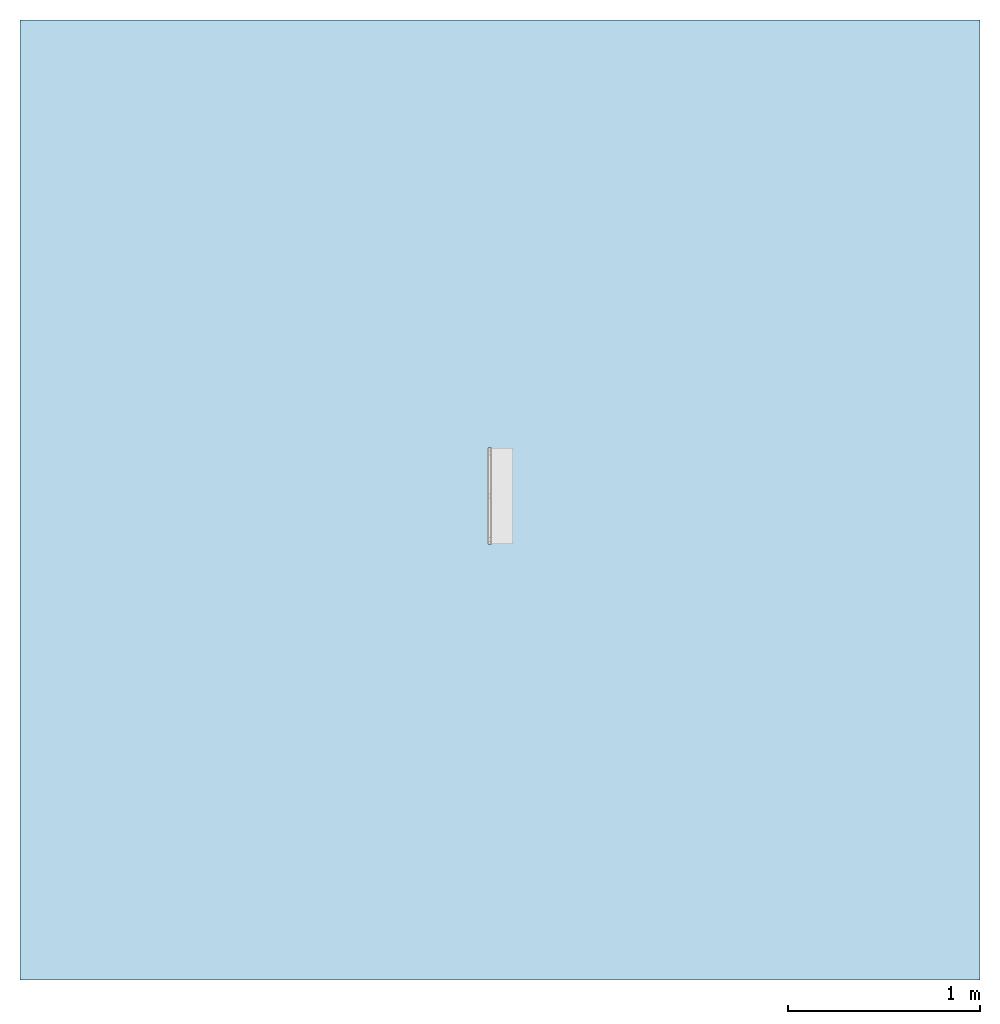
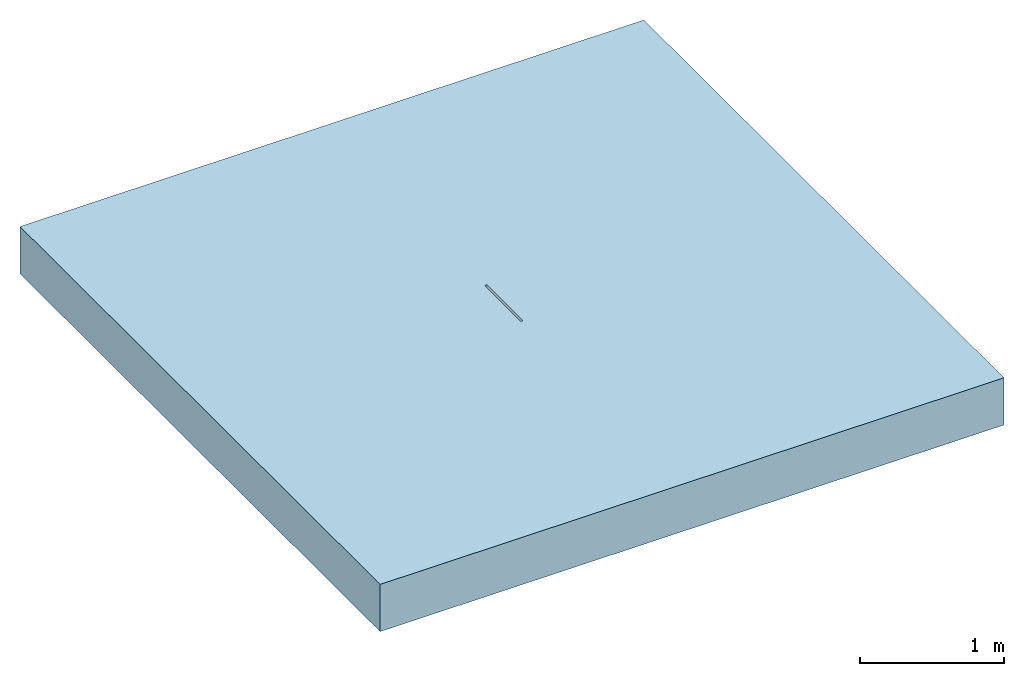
# One storey, part 1 of 2: 1 slab, 2 openings.
"""IFC2X3 building model written with IfcOpenShell, lengths in millimetres."""

import ifcopenshell
import ifcopenshell.guid

model = None  # the IFC model being written
_history = None  # IfcOwnerHistory: only IFC2X3 demands one
_inside = {}  # id of a spatial element -> (the spatial element, [elements in it])
_under = {}  # id of a project, library or spatial element -> (it, [spatial elements below it])
_declared = {}  # id of a project -> (the project, [libraries it declares])
_typed = {}  # id of a type object -> (the type object, [elements of that type])
_made_of = {}  # id of a material, layer set ... -> (it, [elements and type objects made of it])


def new_model(schema):
    """Start an empty IFC model of exactly this schema.

    Asked for "IFC4X3", IfcOpenShell would pick the latest addendum, in which some entities
    have other attributes; the version numbers below select the first issue.
    IFC2X3 requires an IfcOwnerHistory on every rooted entity: one is made here for all.
    """
    global model, _history
    if schema == "IFC4X3":
        model = ifcopenshell.file(schema_version=(4, 3, 0, 0))
    else:
        model = ifcopenshell.file(schema=schema)
    _inside.clear()
    _under.clear()
    _declared.clear()
    _typed.clear()
    _made_of.clear()
    _history = None
    if model.schema == "IFC2X3":
        org = make("IfcOrganization", Name="unknown")
        user = make(
            "IfcPersonAndOrganization",
            ThePerson=make("IfcPerson", FamilyName="unknown"),
            TheOrganization=org,
        )
        app = make(
            "IfcApplication",
            ApplicationDeveloper=org,
            Version="unknown",
            ApplicationFullName="unknown",
            ApplicationIdentifier="unknown",
        )
        _history = make(
            "IfcOwnerHistory",
            OwningUser=user,
            OwningApplication=app,
            ChangeAction="ADDED",
            CreationDate=0,
        )
    return model


def make(cls, **values):
    """One entity of the class cls with the attributes given. An attribute that is None is left unset."""
    return model.create_entity(
        cls, **{name: value for name, value in values.items() if value is not None}
    )


def entity(cls, *values):
    """Any entity or typed value of the class cls, its attributes in the order of the schema. None: left unset."""
    e = model.create_entity(cls)
    for i, value in enumerate(values):
        if value is not None:
            e[i] = value
    return e


def rooted(cls, **values):
    """An entity with a GlobalId (a new one), such as an element, a storey or a relation."""
    return make(cls, GlobalId=ifcopenshell.guid.new(), OwnerHistory=_history, **values)


def si_unit(unit_type, name, prefix=None):
    """IfcSIUnit, for example si_unit("LENGTHUNIT", "METRE", prefix="MILLI")."""
    return make("IfcSIUnit", UnitType=unit_type, Prefix=prefix, Name=name)


def converted_unit(unit_type, name, factor, base, dimensions=None, offset=None):
    """IfcConversionBasedUnit, such as the inch: factor (a typed value) times the base unit."""
    return make(
        "IfcConversionBasedUnit"
        if offset is None
        else "IfcConversionBasedUnitWithOffset",
        ConversionOffset=offset,
        Dimensions=None
        if dimensions is None
        else entity("IfcDimensionalExponents", *dimensions),
        UnitType=unit_type,
        Name=name,
        ConversionFactor=make(
            "IfcMeasureWithUnit", ValueComponent=factor, UnitComponent=base
        ),
    )


def assignment(units):
    """IfcUnitAssignment: the units of a project."""
    return None if units is None else make("IfcUnitAssignment", Units=units)


def point(xyz):
    """IfcCartesianPoint."""
    return None if xyz is None else make("IfcCartesianPoint", Coordinates=xyz)


def direction(xyz):
    """IfcDirection."""
    return None if xyz is None else make("IfcDirection", DirectionRatios=xyz)


def frame(location, z_axis=None, x_axis=None):
    """IfcAxis2Placement3D, a coordinate frame: its origin and axes. An axis left out is left unset."""
    return make(
        "IfcAxis2Placement3D",
        Location=point(location),
        Axis=direction(z_axis),
        RefDirection=direction(x_axis),
    )


def frame_2d(location, x_axis=None):
    """IfcAxis2Placement2D, a coordinate frame in the plane: its origin and x axis."""
    return make(
        "IfcAxis2Placement2D", Location=point(location), RefDirection=direction(x_axis)
    )


def origin():
    """The frame at (0, 0, 0) with its axes left unset."""
    return frame((0.0, 0.0, 0.0))


def place(relative_to, where):
    """IfcLocalPlacement: puts the frame where relative to a parent placement (None: the world)."""
    return make(
        "IfcLocalPlacement", PlacementRelTo=relative_to, RelativePlacement=where
    )


def context(
    kind, dimensions, precision=None, world=None, true_north=None, identifier=None
):
    """IfcGeometricRepresentationContext, for example the 3D "Model" context."""
    return make(
        "IfcGeometricRepresentationContext",
        ContextIdentifier=identifier,
        ContextType=kind,
        CoordinateSpaceDimension=dimensions,
        Precision=precision,
        WorldCoordinateSystem=world,
        TrueNorth=true_north,
    )


def subcontext(parent, identifier, kind, view, scale=None):
    """IfcGeometricRepresentationSubContext, for example "Body" below "Model"."""
    return make(
        "IfcGeometricRepresentationSubContext",
        ContextIdentifier=identifier,
        ContextType=kind,
        ParentContext=parent,
        TargetScale=scale,
        TargetView=view,
    )


def project(units=None, contexts=None):
    """IfcProject with its units and contexts."""
    return rooted(
        "IfcProject",
        Name="project",
        RepresentationContexts=contexts,
        UnitsInContext=assignment(units),
    )


def spatial(cls, under=None, at=None, **own):
    """A site, building, storey or space (cls), placed at a placement, below another one or the project."""
    s = rooted(cls, ObjectPlacement=at, **own)
    if under is not None:
        _under.setdefault(under.id(), (under, []))[1].append(s)
    return s


def polyline(points):
    """IfcPolyline through the points."""
    return make("IfcPolyline", Points=[point(p) for p in points])


def profile(cls, at=None, kind="AREA", **sizes):
    """A parametric profile (cls). Its sizes go by their IFC names, for example OverallWidth=200.0."""
    return make(cls, ProfileType=kind, Position=at, **sizes)


def rectangle(**sizes):
    """IfcRectangleProfileDef."""
    return profile("IfcRectangleProfileDef", **sizes)


def outline(outer, holes=None, kind="AREA"):
    """IfcArbitraryClosedProfileDef: a profile drawn as a closed curve; with holes, ...WithVoids."""
    if holes is None:
        return make("IfcArbitraryClosedProfileDef", ProfileType=kind, OuterCurve=outer)
    return make(
        "IfcArbitraryProfileDefWithVoids",
        ProfileType=kind,
        OuterCurve=outer,
        InnerCurves=holes,
    )


def extrude(swept, where, along, depth):
    """IfcExtrudedAreaSolid: the profile swept, set in the frame where, extruded along a direction by depth."""
    return make(
        "IfcExtrudedAreaSolid",
        SweptArea=swept,
        Position=where,
        ExtrudedDirection=direction(along),
        Depth=depth,
    )


def shape(context_of_items, identifier, shape_type, items):
    """IfcShapeRepresentation: the items that make up one representation, for example the "Body"."""
    return make(
        "IfcShapeRepresentation",
        ContextOfItems=context_of_items,
        RepresentationIdentifier=identifier,
        RepresentationType=shape_type,
        Items=items,
    )


def material(Name=None, Category=None):
    """IfcMaterial."""
    return make("IfcMaterial", Name=Name, Category=Category)


def layer(
    of_material, thickness, ventilated=None, Name=None, Category=None, Priority=None
):
    """IfcMaterialLayer: one layer of a wall or slab, of a material (None: an air gap)."""
    return make(
        "IfcMaterialLayer",
        Material=of_material,
        LayerThickness=thickness,
        IsVentilated=ventilated,
        Name=Name,
        Category=Category,
        Priority=Priority,
    )


def layer_set(layers, Name=None):
    """IfcMaterialLayerSet."""
    return make("IfcMaterialLayerSet", MaterialLayers=layers, LayerSetName=Name)


def layer_usage(for_layer_set, set_direction, sense, offset, extent=None):
    """IfcMaterialLayerSetUsage: how a layer set lies in its element."""
    return make(
        "IfcMaterialLayerSetUsage",
        ForLayerSet=for_layer_set,
        LayerSetDirection=set_direction,
        DirectionSense=sense,
        OffsetFromReferenceLine=offset,
        ReferenceExtent=extent,
    )


def made_of(thing, what):
    """Note that an element or type object is made of a material, layer set ...; save() writes the relation."""
    if what is not None:
        _made_of.setdefault(what.id(), (what, []))[1].append(thing)
    return thing


def element(
    cls,
    number,
    at=None,
    inside=None,
    cuts=None,
    type_object=None,
    material=None,
    context=None,
    identifier="Body",
    shape_type=None,
    held_by="IfcProductDefinitionShape",
    body=None,
    shapes=None,
    **own,
):
    """One element of the class cls, such as IfcWall. Its Tag is "e" and its number.

    at: its placement. inside: the storey or other place that contains it. cuts: it is an
    opening in that element (IfcRelVoidsElement). A single representation is given by context,
    identifier, shape_type and body (its items); several are given by shapes. held_by: the class
    of the entity that holds the representations. save() writes the other relations.
    """
    e = rooted(cls, Tag="e%d" % number, ObjectPlacement=at, **own)
    if body is not None:
        shapes = [shape(context, identifier, shape_type, body)]
    if shapes is not None:
        e.Representation = make(held_by, Representations=shapes)
    if inside is not None:
        _inside.setdefault(inside.id(), (inside, []))[1].append(e)
    if cuts is not None:
        rooted(
            "IfcRelVoidsElement", RelatingBuildingElement=cuts, RelatedOpeningElement=e
        )
    if type_object is not None:
        _typed.setdefault(type_object.id(), (type_object, []))[1].append(e)
    return made_of(e, material)


def aggregate(whole, parts):
    """IfcRelAggregates: a whole, such as a stair, and the parts it consists of."""
    return rooted("IfcRelAggregates", RelatingObject=whole, RelatedObjects=parts)


def save(model, path):
    """Write the relations noted so far, then the file.

    IfcRelAggregates (storeys below a building ...), IfcRelContainedInSpatialStructure (elements
    in a storey), IfcRelDefinesByType, IfcRelAssociatesMaterial and IfcRelDeclares: one each for
    every whole, place, type object, material and project.
    """
    for whole, parts in _under.values():
        aggregate(whole, parts)
    for where, things in _inside.values():
        rooted(
            "IfcRelContainedInSpatialStructure",
            RelatedElements=things,
            RelatingStructure=where,
        )
    for kind, things in _typed.values():
        rooted("IfcRelDefinesByType", RelatedObjects=things, RelatingType=kind)
    for what, things in _made_of.values():
        rooted("IfcRelAssociatesMaterial", RelatedObjects=things, RelatingMaterial=what)
    for by, libraries in _declared.values():
        rooted("IfcRelDeclares", RelatingContext=by, RelatedDefinitions=libraries)
    model.write(path)


model = new_model("IFC2X3")

# Units and contexts
model_context = context("Model", 3, precision=1e-06, world=origin(), true_north=direction((2.0, 6.12303176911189e-17, 1.0)))
context_of_model = context(None, 3, precision=1e-06, world=origin(), true_north=direction((2.0, 6.12303176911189e-17, 1.0)))
body_context = subcontext(model_context, "Body", "Model", "MODEL_VIEW")
ifc_project = project(units=[si_unit("LENGTHUNIT", "METRE", prefix="MILLI"), si_unit("AREAUNIT", "SQUARE_METRE", prefix="MILLI"), si_unit("VOLUMEUNIT", "CUBIC_METRE", prefix="MILLI"), converted_unit("PLANEANGLEUNIT", "DEGREE", entity("IfcRatioMeasure", 0.0174532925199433), si_unit("PLANEANGLEUNIT", "RADIAN"), dimensions=[0, 0, 0, 0, 0, 0, 0]), si_unit("TIMEUNIT", "SECOND")], contexts=[model_context, context_of_model])

# Site, building, storey
site_placement = place(None, origin())
site = spatial("IfcSite", under=ifc_project, at=site_placement, Name="Default", CompositionType="ELEMENT")
building_placement = place(site_placement, origin())
building = spatial("IfcBuilding", under=site, at=building_placement, CompositionType="ELEMENT")
storey_placement = place(building_placement, origin())
storey = spatial("IfcBuildingStorey", under=building, at=storey_placement, Name="Level 1", CompositionType="ELEMENT", Elevation=0.0)

# Slab, openings
ifc_material = material(Name="Earth")
ifc_layer = layer(ifc_material, 400.0)
ifc_layer_set = layer_set([ifc_layer], Name="Floor:Generic Floor - 400mm")
ifc_layer_usage = layer_usage(ifc_layer_set, "AXIS3", "POSITIVE", 0.0)
slab_placement = place(storey_placement, origin())
slab = element("IfcSlab", 1, at=slab_placement, inside=storey, material=ifc_layer_usage, Name="Floor:Generic Floor - 400mm", ObjectType="Floor:Generic Floor - 400mm", PredefinedType="FLOOR", context=body_context, shape_type="SweptSolid", body=[
    extrude(rectangle(XDim=5000.0, YDim=5000.0, at=frame_2d((0.0, 0.0), x_axis=(0.0, -1.0))), frame((0.0, 0.0, 0.0), z_axis=(0.0, 0.0, -1.0), x_axis=(-1.0, 0.0, 0.0)), (0.0, 0.0, 1.0), 400.0),
])
opening_1_placement = place(slab_placement, origin())
element("IfcOpeningElement", 2, at=opening_1_placement, cuts=slab, ObjectType="Recess", context=body_context, shape_type="SweptSolid", body=[
    extrude(outline(polyline([(-63.2499999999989, -250.0), (63.2499999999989, -250.0), (63.2499999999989, 250.0), (-63.2499999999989, 250.0), (-63.2499999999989, -250.0)]), holes=[polyline([(-53.2499999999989, -244.0), (-53.2499999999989, 244.0), (45.2499999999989, 244.0), (45.2499999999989, -244.0), (-53.2499999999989, -244.0)])]), frame((0.0, 20.0, -6605.0), z_axis=(0.0, 0.0, 1.0), x_axis=(-1.0, 0.0, 0.0)), (0.0, 0.0, 1.0), 105.0),
])
opening_2_placement = place(slab_placement, origin())
element("IfcOpeningElement", 3, at=opening_2_placement, cuts=slab, ObjectType="Recess", context=body_context, shape_type="SweptSolid", body=[
    extrude(outline(polyline([(-176.250000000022, -40.3750000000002), (23.7499999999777, -40.3750000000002), (23.7499999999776, -36.1250000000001), (128.750000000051, -36.1250000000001), (128.750000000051, -18.1249999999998), (23.7500000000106, -18.1249999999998), (23.7499999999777, 94.6250000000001), (-176.250000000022, 94.6250000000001), (-176.250000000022, -40.3750000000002)])), frame((-27.1249999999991, -230.0, -128.750000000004), z_axis=(0.0, 1.0, 0.0), x_axis=(0.0, 0.0, 1.0)), (0.0, 0.0, 1.0), 500.0),
])

save(model, "model.ifc")
